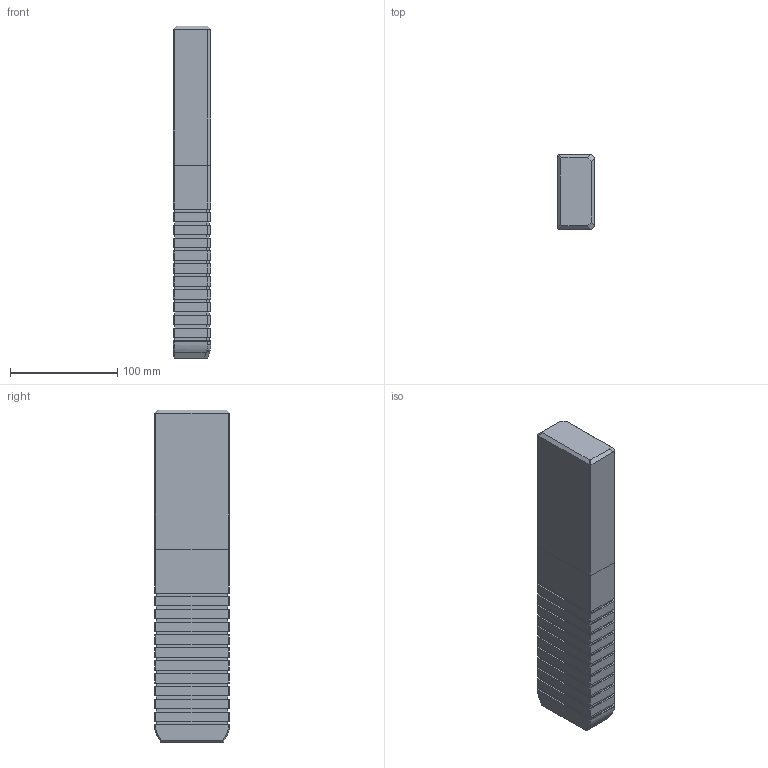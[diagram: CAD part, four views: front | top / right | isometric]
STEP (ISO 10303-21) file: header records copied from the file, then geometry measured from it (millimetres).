
FILE_DESCRIPTION((''),'2;1');
FILE_NAME('','2010-08-30T13:16:41+09:00',('misumi'),(''),'M/STEP i/f 1R2-14','CADmeister v5.1','');
FILE_SCHEMA(('AUTOMOTIVE_DESIGN'));
Length unit declared in the file: millimetre
Products named in the file (1): GWZ70-310
Bounding box: 35 x 70 x 310 mm (x, y, z)
Volume: 742466.7 mm3; surface area: 73784.4 mm2
Topology: 1 solids, 1 shells, 243 faces, 635 edges, 416 vertices
Faces by surface type: plane 232, bspline 6, cylinder 3, cone 2
Entity records: 7651 total; most frequent: CARTESIAN_POINT 1637, ORIENTED_EDGE 1270, DIRECTION 1097, EDGE_CURVE 635, LINE 613, VECTOR 613, VERTEX_POINT 416, EDGE_LOOP 265
